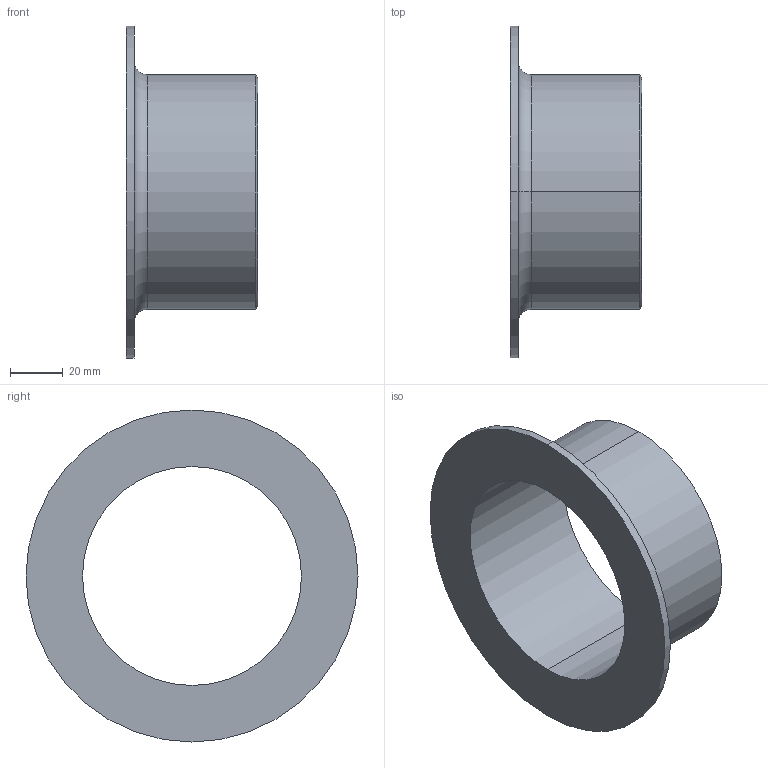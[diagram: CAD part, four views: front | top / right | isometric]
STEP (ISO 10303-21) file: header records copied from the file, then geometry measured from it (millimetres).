
FILE_DESCRIPTION (( 'STEP AP214' ), '1' );
FILE_NAME ('Stub-end-Sch10S-10K-80A.STEP', '2022-03-22T06:44:15', ( 'ASIS User' ), ( 'ASIS User' ), 'SwSTEP 2.0', 'SolidWorks 2021', '' );
FILE_SCHEMA (( 'AUTOMOTIVE_DESIGN' ));
Length unit declared in the file: millimetre
Products named in the file (1): Stub-end-Sch10S-10K-80A
Bounding box: 50 x 126 x 126 mm (x, y, z)
Volume: 60641.7 mm3; surface area: 40719.9 mm2
Topology: 1 solids, 1 shells, 13 faces, 26 edges, 16 vertices
Faces by surface type: cylinder 6, plane 3, cone 2, torus 2
Entity records: 384 total; most frequent: DIRECTION 72, CARTESIAN_POINT 56, ORIENTED_EDGE 52, AXIS2_PLACEMENT_3D 32, EDGE_CURVE 26, CIRCLE 18, EDGE_LOOP 16, VERTEX_POINT 16
